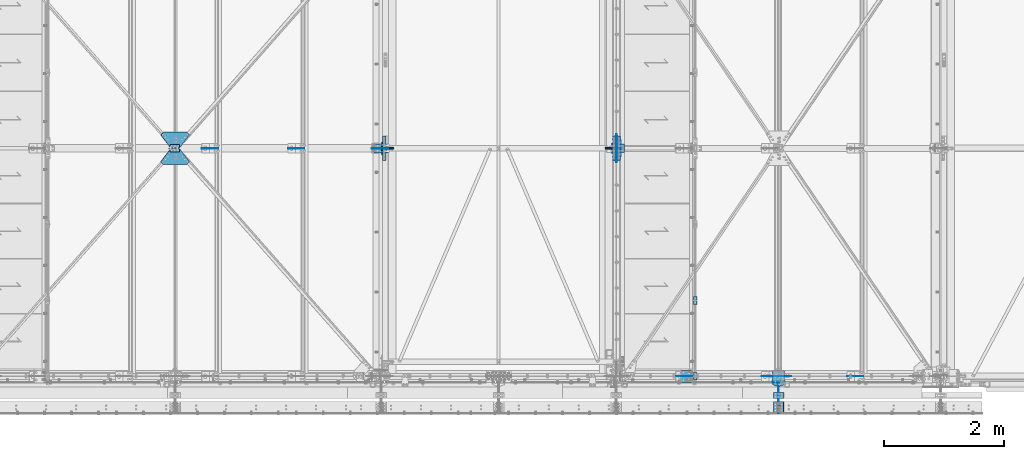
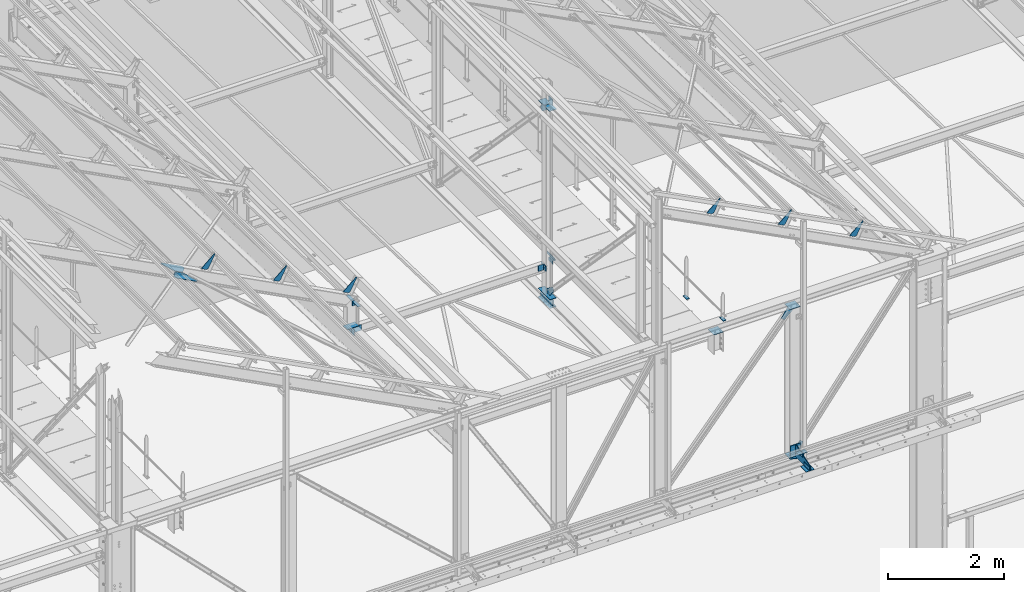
# One storey, part 86 of 362: 36 beams, 6 members, 32 elements without a shape of their own.
"""IFC2X3 building model written with IfcOpenShell, lengths in millimetres."""

from ifc_helpers import new_model, si_unit, frame, frame_2d, origin_with_axes, origin_2d_with_axis, place, context, subcontext, project, spatial, polyline, circle_curve, parameter, trimmed, segment, composite_curve, rectangle, l_section, outline, extrude, material, type_object, element, aggregate, save


model = new_model("IFC2X3")

# Units and contexts
model_context = context("Model", 3, precision=1e-05, world=origin_with_axes())
body_context = subcontext(model_context, "Body", "Model", "MODEL_VIEW")
ifc_project = project(units=[si_unit("LENGTHUNIT", "METRE", prefix="MILLI"), si_unit("AREAUNIT", "SQUARE_METRE"), si_unit("VOLUMEUNIT", "CUBIC_METRE"), si_unit("MASSUNIT", "GRAM", prefix="KILO"), si_unit("TIMEUNIT", "SECOND"), si_unit("PLANEANGLEUNIT", "RADIAN"), si_unit("SOLIDANGLEUNIT", "STERADIAN"), si_unit("THERMODYNAMICTEMPERATUREUNIT", "DEGREE_CELSIUS"), si_unit("LUMINOUSINTENSITYUNIT", "LUMEN")], contexts=[model_context])

# Site, building, storey
site_placement = place(None, origin_with_axes())
site = spatial("IfcSite", under=ifc_project, at=site_placement, Name="Undefined", CompositionType="ELEMENT")
building_placement = place(site_placement, origin_with_axes())
building = spatial("IfcBuilding", under=site, at=building_placement, Name="Undefined", CompositionType="ELEMENT")
storey_placement = place(building_placement, origin_with_axes())
storey = spatial("IfcBuildingStorey", under=building, at=storey_placement, Name="Undefined", CompositionType="ELEMENT", Elevation=0.0)

# Assembly, beams
assembly_1_placement = place(storey_placement, origin_with_axes())
assembly_1 = element("IfcElementAssembly", 1, at=assembly_1_placement, inside=storey, Name="MAIN COURANTE", AssemblyPlace="NOTDEFINED", PredefinedType="NOTDEFINED")
ifc_material = material(Name="Undefined/S235-E24")
beam_type_1 = type_object("IfcBeamType", Name="PL10*60", PredefinedType="NOTDEFINED")
beam_1_placement = place(assembly_1_placement, frame((24783.9915987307, 65.0000000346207, 8555.00000819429), z_axis=(-1.0, 0.0, 0.0), x_axis=(0.0, -1.0, 0.0)))
beam_1 = element("IfcBeam", 2, at=beam_1_placement, type_object=beam_type_1, material=ifc_material, Name="PLATINE", ObjectType="PL10*60", context=body_context, shape_type="SweptSolid", body=[
    extrude(rectangle(XDim=10.0, YDim=60.0, at=origin_2d_with_axis()), frame((130.0, 0.0, 0.0), z_axis=(-1.0, 0.0, 0.0), x_axis=(0.0, -1.0, 0.0)), (0.0, 0.0, 1.0), 130.0),
])
beam_2_placement = place(assembly_1_placement, frame((24783.9915987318, 1330.00343957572, 8245.00000819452), z_axis=(-1.0, 0.0, 0.0), x_axis=(0.0, -1.0, 0.0)))
beam_2 = element("IfcBeam", 3, at=beam_2_placement, type_object=beam_type_1, material=ifc_material, Name="PLATINE", ObjectType="PL10*60", context=body_context, shape_type="SweptSolid", body=[
    extrude(rectangle(XDim=10.0, YDim=60.0, at=origin_2d_with_axis()), frame((130.0, 0.0, 0.0), z_axis=(-1.0, 0.0, 0.0), x_axis=(0.0, -1.0, 0.0)), (0.0, 0.0, 1.0), 130.0),
])
aggregate(assembly_1, [beam_1, beam_2])

# Assembly, beam
assembly_2_placement = place(storey_placement, origin_with_axes())
assembly_2 = element("IfcElementAssembly", 4, at=assembly_2_placement, inside=storey, Name="MONTANT", AssemblyPlace="NOTDEFINED", PredefinedType="NOTDEFINED")
beam_type_2 = type_object("IfcBeamType", Name="TOLE8*138", PredefinedType="NOTDEFINED")
beam_3_placement = place(assembly_2_placement, frame((23470.0, 3797.25, 7260.0), z_axis=(-1.0, 0.0, 0.0), x_axis=(0.0, -1.0, 0.0)))
beam_3 = element("IfcBeam", 5, at=beam_3_placement, type_object=beam_type_2, material=ifc_material, Name="GOUSSET", ObjectType="TOLE8*138", context=body_context, shape_type="SweptSolid", body=[
    extrude(outline(polyline([(1.47401806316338e-08, 20.0000000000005), (19.9999999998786, -3.63797880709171e-12), (97.25, 0.0), (233.206909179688, 179.537170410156), (175.303482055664, 234.738555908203), (0.0, 100.0), (1.47401806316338e-08, 20.0000000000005)])), frame((0.0, 0.0, -4.0), z_axis=(0.0, 0.0, 1.0), x_axis=(1.0, 0.0, 0.0)), (0.0, 0.0, 1.0), 8.0),
])

assembly_3_placement = place(storey_placement, origin_with_axes())
assembly_3 = element("IfcElementAssembly", 6, at=assembly_3_placement, inside=storey, Name="MONTANT", AssemblyPlace="NOTDEFINED", PredefinedType="NOTDEFINED")
beam_type_3 = type_object("IfcBeamType", Name="PL10*200", PredefinedType="NOTDEFINED")
beam_4_placement = place(assembly_3_placement, frame((24546.4916205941, 0.0, 8354.99445082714), z_axis=(0.0, -1.0, 0.0), x_axis=(1.0, 0.0, 0.0)))
beam_4 = element("IfcBeam", 7, at=beam_4_placement, type_object=beam_type_3, material=ifc_material, Name="PLATINE", ObjectType="PL10*200", context=body_context, shape_type="SweptSolid", body=[
    extrude(rectangle(XDim=10.0, YDim=200.0, at=origin_2d_with_axis()), frame((190.0, 0.0, 0.0), z_axis=(-1.0, 0.0, 0.0), x_axis=(0.0, -1.0, 0.0)), (0.0, 0.0, 1.0), 190.0),
])
aggregate(assembly_3, [beam_4])

# Assembly, beams
assembly_4_placement = place(storey_placement, origin_with_axes())
assembly_4 = element("IfcElementAssembly", 8, at=assembly_4_placement, inside=storey, Name="MONTANT", AssemblyPlace="NOTDEFINED", PredefinedType="NOTDEFINED")
beam_5_placement = place(assembly_4_placement, frame((26074.9982817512, 0.0, 8354.99930736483), z_axis=(0.0, 1.0, 0.0), x_axis=(1.0, 0.0, 0.0)))
beam_5 = element("IfcBeam", 9, at=beam_5_placement, type_object=beam_type_3, material=ifc_material, Name="PLATINE", ObjectType="PL10*200", context=body_context, shape_type="SweptSolid", body=[
    extrude(rectangle(XDim=10.0, YDim=200.0, at=origin_2d_with_axis()), frame((200.003108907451, 1.3235095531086e-21, 0.0), z_axis=(-1.0, 0.0, 0.0), x_axis=(0.0, -1.0, 0.0)), (0.0, 0.0, 1.0), 200.0),
])
beam_6_placement = place(assembly_4_placement, frame((26074.9982812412, 0.0, 5195.00069263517), z_axis=(0.0, 1.0, 0.0), x_axis=(1.0, 0.0, 0.0)))
beam_6 = element("IfcBeam", 10, at=beam_6_placement, type_object=beam_type_3, material=ifc_material, Name="PLATINE", ObjectType="PL10*200", context=body_context, shape_type="SweptSolid", body=[
    extrude(rectangle(XDim=10.0, YDim=200.0, at=origin_2d_with_axis()), frame((200.003108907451, 1.3235095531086e-21, 0.0), z_axis=(-1.0, 0.0, 0.0), x_axis=(0.0, -1.0, 0.0)), (0.0, 0.0, 1.0), 200.0),
])

# Assembly, beam
assembly_5_placement = place(storey_placement, origin_with_axes())
assembly_5 = element("IfcElementAssembly", 11, at=assembly_5_placement, inside=storey, AssemblyPlace="NOTDEFINED", PredefinedType="NOTDEFINED")
beam_type_4 = type_object("IfcBeamType", Name="L80*8", PredefinedType="NOTDEFINED")
beam_7_placement = place(assembly_5_placement, frame((26222.4921676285, -270.0, 5409.99824538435), z_axis=(0.0, 0.0, -1.0), x_axis=(0.0, -1.0, 0.0)))
beam_7 = element("IfcBeam", 12, at=beam_7_placement, type_object=beam_type_4, material=ifc_material, Name="ATTACHE", ObjectType="L80*8", context=body_context, shape_type="SweptSolid", body=[
    extrude(l_section(Depth=80.0, Width=80.0, Thickness=8.0, FilletRadius=10.0, EdgeRadius=5.0, at=origin_2d_with_axis()), frame((99.9999999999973, -1.63709046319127e-11, 7.73070496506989e-12), z_axis=(-1.0, 0.0, 0.0), x_axis=(0.0, -1.0, 0.0)), (0.0, 0.0, 1.0), 100.0),
])
aggregate(assembly_5, [beam_7])

assembly_6_placement = place(storey_placement, origin_with_axes())
assembly_6 = element("IfcElementAssembly", 13, at=assembly_6_placement, inside=storey, AssemblyPlace="NOTDEFINED", PredefinedType="NOTDEFINED")
beam_8_placement = place(assembly_6_placement, frame((26127.5, -370.0, 5409.99824538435), z_axis=(0.0, 0.0, -1.0), x_axis=(0.0, 1.0, 0.0)))
beam_8 = element("IfcBeam", 14, at=beam_8_placement, type_object=beam_type_4, material=ifc_material, Name="ATTACHE", ObjectType="L80*8", context=body_context, shape_type="SweptSolid", body=[
    extrude(l_section(Depth=80.0, Width=80.0, Thickness=8.0, FilletRadius=10.0, EdgeRadius=5.0, at=origin_2d_with_axis()), frame((99.9999999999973, -1.63709046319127e-11, 7.73070496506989e-12), z_axis=(-1.0, 0.0, 0.0), x_axis=(0.0, -1.0, 0.0)), (0.0, 0.0, 1.0), 100.0),
])
aggregate(assembly_6, [beam_8])

assembly_7_placement = place(storey_placement, origin_with_axes())
assembly_7 = element("IfcElementAssembly", 15, at=assembly_7_placement, inside=storey, AssemblyPlace="NOTDEFINED", PredefinedType="NOTDEFINED")
beam_9_placement = place(assembly_7_placement, frame((26222.4921676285, -620.0, 5269.99824538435), z_axis=(0.0, 0.0, 1.0), x_axis=(0.0, 1.0, 0.0)))
beam_9 = element("IfcBeam", 16, at=beam_9_placement, type_object=beam_type_4, material=ifc_material, Name="ATTACHE", ObjectType="L80*8", context=body_context, shape_type="SweptSolid", body=[
    extrude(l_section(Depth=80.0, Width=80.0, Thickness=8.0, FilletRadius=10.0, EdgeRadius=5.0, at=origin_2d_with_axis()), frame((200.0, 0.0, 0.0), z_axis=(-1.0, 0.0, 0.0), x_axis=(0.0, -1.0, 0.0)), (0.0, 0.0, 1.0), 200.0),
])
aggregate(assembly_7, [beam_9])

assembly_8_placement = place(storey_placement, origin_with_axes())
assembly_8 = element("IfcElementAssembly", 17, at=assembly_8_placement, inside=storey, AssemblyPlace="NOTDEFINED", PredefinedType="NOTDEFINED")
beam_10_placement = place(assembly_8_placement, frame((26127.5, -420.0, 5269.99824538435), z_axis=(0.0, 0.0, 1.0), x_axis=(0.0, -1.0, 0.0)))
beam_10 = element("IfcBeam", 18, at=beam_10_placement, type_object=beam_type_4, material=ifc_material, Name="ATTACHE", ObjectType="L80*8", context=body_context, shape_type="SweptSolid", body=[
    extrude(l_section(Depth=80.0, Width=80.0, Thickness=8.0, FilletRadius=10.0, EdgeRadius=5.0, at=origin_2d_with_axis()), frame((200.0, 0.0, 0.0), z_axis=(-1.0, 0.0, 0.0), x_axis=(0.0, -1.0, 0.0)), (0.0, 0.0, 1.0), 200.0),
])
aggregate(assembly_8, [beam_10])

# Assembly, beams
assembly_9_placement = place(storey_placement, origin_with_axes())
assembly_9 = element("IfcElementAssembly", 19, at=assembly_9_placement, inside=storey, Name="CONSOLE", AssemblyPlace="NOTDEFINED", PredefinedType="NOTDEFINED")
beam_type_5 = type_object("IfcBeamType", Name="TOLE10*60", PredefinedType="NOTDEFINED")
beam_11_placement = place(assembly_9_placement, frame((26075.0, -110.0, 5224.99824534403), z_axis=(0.0, 0.0, 1.0), x_axis=(0.0, -1.0, 0.0)))
beam_11 = element("IfcBeam", 20, at=beam_11_placement, type_object=beam_type_5, material=ifc_material, Name="RAIDISSEUR", ObjectType="TOLE10*60", context=body_context, shape_type="SweptSolid", body=[
    extrude(outline(polyline([(0.0, 0.0), (30.0, 0.0), (60.0, 82.5), (60.0, 117.5), (30.0, 200.0), (0.0, 200.0), (0.0, 0.0)])), frame((0.0, 0.0, -5.0), z_axis=(0.0, 0.0, 1.0), x_axis=(1.0, 0.0, 0.0)), (0.0, 0.0, 1.0), 10.0),
])
beam_type_6 = type_object("IfcBeamType", Name="PL15*200", PredefinedType="NOTDEFINED")
beam_12_placement = place(assembly_9_placement, frame((26175.0, -102.5, 5479.99824538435), z_axis=(1.0, 0.0, 0.0), x_axis=(0.0, 0.0, -1.0)))
beam_12 = element("IfcBeam", 21, at=beam_12_placement, type_object=beam_type_6, material=ifc_material, Name="PLATINE", ObjectType="PL15*200", context=body_context, shape_type="SweptSolid", body=[
    extrude(rectangle(XDim=15.0, YDim=200.0, at=origin_2d_with_axis()), frame((265.000000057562, 0.0, 0.0), z_axis=(-1.0, 0.0, 0.0), x_axis=(0.0, -1.0, 0.0)), (0.0, 0.0, 1.0), 265.0),
])
beam_type_7 = type_object("IfcBeamType", Name="TOLE15*250", PredefinedType="NOTDEFINED")
beam_13_placement = place(assembly_9_placement, frame((26175.0, -620.0, 5229.99824538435), z_axis=(-1.0, 0.0, 0.0), x_axis=(0.0, 0.0, 1.0)))
beam_13 = element("IfcBeam", 22, at=beam_13_placement, type_object=beam_type_7, material=ifc_material, Name="CONSOLE", ObjectType="TOLE15*250", context=body_context, shape_type="SweptSolid", body=[
    extrude(outline(polyline([(0.0, 0.0), (100.0, 0.0), (250.0, 450.0), (250.0, 510.0), (19.9999999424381, 510.0), (-5.53045894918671e-08, 490.0), (0.0, 0.0)])), frame((0.0, 0.0, -7.5), z_axis=(0.0, 0.0, 1.0), x_axis=(1.0, 0.0, 0.0)), (0.0, 0.0, 1.0), 15.0),
])
aggregate(assembly_9, [beam_11, beam_12, beam_13])

# Assembly, beam
assembly_10_placement = place(storey_placement, origin_with_axes())
assembly_10 = element("IfcElementAssembly", 23, at=assembly_10_placement, inside=storey, AssemblyPlace="NOTDEFINED", PredefinedType="NOTDEFINED")
beam_type_8 = type_object("IfcBeamType", Name="L70*7", PredefinedType="NOTDEFINED")
beam_14_placement = place(assembly_10_placement, frame((23571.5000012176, 3730.0, 7915.0), z_axis=(1.0, 0.0, 0.0), x_axis=(0.0, 1.0, 0.0)))
beam_14 = element("IfcBeam", 24, at=beam_14_placement, type_object=beam_type_8, material=ifc_material, Name="ATTACHE", ObjectType="L70*7", context=body_context, shape_type="SweptSolid", body=[
    extrude(l_section(Depth=70.0, Width=70.0, Thickness=7.0, FilletRadius=9.0, EdgeRadius=4.5, at=origin_2d_with_axis()), frame((140.0, 0.0, 0.0), z_axis=(-1.0, 0.0, 0.0), x_axis=(0.0, -1.0, 0.0)), (0.0, 0.0, 1.0), 140.0),
])
aggregate(assembly_10, [beam_14])

# Assembly, member
assembly_11_placement = place(storey_placement, origin_with_axes())
assembly_11 = element("IfcElementAssembly", 25, at=assembly_11_placement, inside=storey, AssemblyPlace="NOTDEFINED", PredefinedType="NOTDEFINED")
member_type_1 = type_object("IfcMemberType", Name="L60*6", PredefinedType="NOTDEFINED")
member_1_placement = place(assembly_11_placement, frame((16018.5622793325, 3766.50015095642, 10284.0892916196), z_axis=(0.0, -1.0, 0.0), x_axis=(0.886081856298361, 3.500000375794e-08, -0.463528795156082)))
member_1 = element("IfcMember", 26, at=member_1_placement, type_object=member_type_1, material=ifc_material, Name="ATTACHE", ObjectType="L60*6", context=body_context, shape_type="SweptSolid", body=[
    extrude(l_section(Depth=60.0, Width=60.0, Thickness=6.0, FilletRadius=8.0, EdgeRadius=4.0, at=origin_2d_with_axis()), frame((180.0, 0.0, 0.0), z_axis=(-1.0, 0.0, 0.0), x_axis=(0.0, -1.0, 0.0)), (0.0, 0.0, 1.0), 180.0),
])
aggregate(assembly_11, [member_1])

assembly_12_placement = place(storey_placement, origin_with_axes())
assembly_12 = element("IfcElementAssembly", 27, at=assembly_12_placement, inside=storey, AssemblyPlace="NOTDEFINED", PredefinedType="NOTDEFINED")
member_2_placement = place(assembly_12_placement, frame((16178.0570125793, 3833.49994843, 10200.6541088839), z_axis=(0.0, 1.0, 0.0), x_axis=(-0.886081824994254, 0.0, 0.463528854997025)))
member_2 = element("IfcMember", 28, at=member_2_placement, type_object=member_type_1, material=ifc_material, Name="ATTACHE", ObjectType="L60*6", context=body_context, shape_type="SweptSolid", body=[
    extrude(l_section(Depth=60.0, Width=60.0, Thickness=6.0, FilletRadius=8.0, EdgeRadius=4.0, at=origin_2d_with_axis()), frame((180.0, 0.0, 0.0), z_axis=(-1.0, 0.0, 0.0), x_axis=(0.0, -1.0, 0.0)), (0.0, 0.0, 1.0), 180.0),
])
aggregate(assembly_12, [member_2])

# Assembly, beam
assembly_13_placement = place(storey_placement, origin_with_axes())
assembly_13 = element("IfcElementAssembly", 29, at=assembly_13_placement, inside=storey, Name="PANNE SHED", AssemblyPlace="NOTDEFINED", PredefinedType="NOTDEFINED")
beam_type_9 = type_object("IfcBeamType", Name="TOLE8*140", PredefinedType="NOTDEFINED")
beam_15_placement = place(assembly_13_placement, frame((19667.0878027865, 3800.0, 8923.94974997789), z_axis=(0.0, -1.0, 0.0), x_axis=(-0.886081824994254, 0.0, 0.463528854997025)))
beam_15 = element("IfcBeam", 30, at=beam_15_placement, type_object=beam_type_9, material=ifc_material, Name="RAIDISSEUR", ObjectType="TOLE8*140", context=body_context, shape_type="SweptSolid", body=[
    extrude(outline(polyline([(0.0, 0.0), (19.9999999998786, -3.63797880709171e-12), (140.000030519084, 299.999999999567), (140.000030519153, 319.999999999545), (30.0000147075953, 319.999999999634), (0.0, 290.0), (0.0, 0.0)])), frame((0.0, 0.0, -4.0), z_axis=(0.0, 0.0, 1.0), x_axis=(1.0, 0.0, 0.0)), (0.0, 0.0, 1.0), 8.0),
])
aggregate(assembly_13, [beam_15])

assembly_14_placement = place(storey_placement, origin_with_axes())
assembly_14 = element("IfcElementAssembly", 31, at=assembly_14_placement, inside=storey, Name="PANNE SHED", AssemblyPlace="NOTDEFINED", PredefinedType="NOTDEFINED")
beam_16_placement = place(assembly_14_placement, frame((18269.6614730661, 3800.0, 9654.97325100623), z_axis=(0.0, -1.0, 0.0), x_axis=(-0.886081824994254, 0.0, 0.463528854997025)))
beam_16 = element("IfcBeam", 32, at=beam_16_placement, type_object=beam_type_9, material=ifc_material, Name="RAIDISSEUR", ObjectType="TOLE8*140", context=body_context, shape_type="SweptSolid", body=[
    extrude(outline(polyline([(0.0, 0.0), (19.9999999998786, -3.63797880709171e-12), (140.000030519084, 299.999999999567), (140.000030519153, 319.999999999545), (30.0000147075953, 319.999999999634), (0.0, 290.0), (0.0, 0.0)])), frame((0.0, 0.0, -4.0), z_axis=(0.0, 0.0, 1.0), x_axis=(1.0, 0.0, 0.0)), (0.0, 0.0, 1.0), 8.0),
])
aggregate(assembly_14, [beam_16])

assembly_15_placement = place(storey_placement, origin_with_axes())
assembly_15 = element("IfcElementAssembly", 33, at=assembly_15_placement, inside=storey, Name="PANNE SHED", AssemblyPlace="NOTDEFINED", PredefinedType="NOTDEFINED")
beam_17_placement = place(assembly_15_placement, frame((16832.361407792, 3800.0, 10406.855553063), z_axis=(0.0, -1.0, 0.0), x_axis=(-0.886081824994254, 0.0, 0.463528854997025)))
beam_17 = element("IfcBeam", 34, at=beam_17_placement, type_object=beam_type_9, material=ifc_material, Name="RAIDISSEUR", ObjectType="TOLE8*140", context=body_context, shape_type="SweptSolid", body=[
    extrude(outline(polyline([(0.0, 0.0), (19.9999999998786, -3.63797880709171e-12), (140.000030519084, 299.999999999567), (140.000030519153, 319.999999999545), (30.0000147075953, 319.999999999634), (0.0, 290.0), (0.0, 0.0)])), frame((0.0, 0.0, -4.0), z_axis=(0.0, 0.0, 1.0), x_axis=(1.0, 0.0, 0.0)), (0.0, 0.0, 1.0), 8.0),
])
aggregate(assembly_15, [beam_17])

assembly_16_placement = place(storey_placement, origin_with_axes())
assembly_16 = element("IfcElementAssembly", 35, at=assembly_16_placement, inside=storey, Name="PANNE SHED", AssemblyPlace="NOTDEFINED", PredefinedType="NOTDEFINED")
beam_18_placement = place(assembly_16_placement, frame((27327.8187212, 0.0, 9439.946688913), z_axis=(0.0, -1.0, 0.0), x_axis=(-0.460093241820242, 0.0, -0.887870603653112)))
beam_18 = element("IfcBeam", 36, at=beam_18_placement, type_object=beam_type_9, material=ifc_material, Name="RAIDISSEUR", ObjectType="TOLE8*140", context=body_context, shape_type="SweptSolid", body=[
    extrude(outline(polyline([(0.0, 0.0), (19.9999999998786, -3.63797880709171e-12), (20.0000000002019, 109.999999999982), (-9.99999999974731, 139.99998998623), (-300.0000000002, 139.999893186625), (-300.000000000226, 119.999893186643), (0.0, 0.0)])), frame((0.0, 0.0, -4.0), z_axis=(0.0, 0.0, 1.0), x_axis=(1.0, 0.0, 0.0)), (0.0, 0.0, 1.0), 8.0),
])
aggregate(assembly_16, [beam_18])

assembly_17_placement = place(storey_placement, origin_with_axes())
assembly_17 = element("IfcElementAssembly", 37, at=assembly_17_placement, inside=storey, Name="PANNE SHED", AssemblyPlace="NOTDEFINED", PredefinedType="NOTDEFINED")
beam_19_placement = place(assembly_17_placement, frame((25901.1937204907, 0.0, 10179.221665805), z_axis=(0.0, -1.0, 0.0), x_axis=(-0.460093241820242, 0.0, -0.887870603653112)))
beam_19 = element("IfcBeam", 38, at=beam_19_placement, type_object=beam_type_9, material=ifc_material, Name="RAIDISSEUR", ObjectType="TOLE8*140", context=body_context, shape_type="SweptSolid", body=[
    extrude(outline(polyline([(0.0, 0.0), (19.9999999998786, -3.63797880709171e-12), (20.0000000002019, 109.999999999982), (-9.99999999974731, 139.99998998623), (-300.0000000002, 139.999893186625), (-300.000000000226, 119.999893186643), (0.0, 0.0)])), frame((0.0, 0.0, -4.0), z_axis=(0.0, 0.0, 1.0), x_axis=(1.0, 0.0, 0.0)), (0.0, 0.0, 1.0), 8.0),
])
aggregate(assembly_17, [beam_19])

assembly_18_placement = place(storey_placement, origin_with_axes())
assembly_18 = element("IfcElementAssembly", 39, at=assembly_18_placement, inside=storey, Name="PANNE SHED", AssemblyPlace="NOTDEFINED", PredefinedType="NOTDEFINED")
beam_20_placement = place(assembly_18_placement, frame((24474.5687197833, 0.0, 10918.4966426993), z_axis=(0.0, -1.0, 0.0), x_axis=(-0.460093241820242, 0.0, -0.887870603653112)))
beam_20 = element("IfcBeam", 40, at=beam_20_placement, type_object=beam_type_9, material=ifc_material, Name="RAIDISSEUR", ObjectType="TOLE8*140", context=body_context, shape_type="SweptSolid", body=[
    extrude(outline(polyline([(0.0, 0.0), (19.9999999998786, -3.63797880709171e-12), (20.0000000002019, 109.999999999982), (-9.99999999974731, 139.99998998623), (-300.0000000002, 139.999893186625), (-300.000000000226, 119.999893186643), (0.0, 0.0)])), frame((0.0, 0.0, -4.0), z_axis=(0.0, 0.0, 1.0), x_axis=(1.0, 0.0, 0.0)), (0.0, 0.0, 1.0), 8.0),
])
aggregate(assembly_18, [beam_20])

assembly_19_placement = place(storey_placement, origin_with_axes())
assembly_19 = element("IfcElementAssembly", 41, at=assembly_19_placement, inside=storey, AssemblyPlace="NOTDEFINED", PredefinedType="NOTDEFINED")
beam_type_10 = type_object("IfcBeamType", Name="TOLE6*259", PredefinedType="NOTDEFINED")
beam_21_placement = place(assembly_19_placement, frame((16193.3534907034, 3786.50025416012, 10229.8948709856), z_axis=(0.463528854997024, 6.99999093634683e-09, 0.886081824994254), x_axis=(-0.886082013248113, 9.38091927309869e-07, 0.463528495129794)))
beam_21 = element("IfcBeam", 42, at=beam_21_placement, type_object=beam_type_10, material=ifc_material, Name="GOUSSET", ObjectType="TOLE6*259", context=body_context, shape_type="SweptSolid", body=[
    extrude(outline(polyline([(0.0, 0.0), (180.000000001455, -5.27506927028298e-10), (360.682250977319, 209.211318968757), (311.032257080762, 258.555816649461), (-131.170898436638, 258.425079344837), (-180.820907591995, 209.080581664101), (0.0, 0.0)])), frame((0.0, 0.0, -3.0), z_axis=(0.0, 0.0, 1.0), x_axis=(1.0, 0.0, 0.0)), (0.0, 0.0, 1.0), 6.0),
])
aggregate(assembly_19, [beam_21])

assembly_20_placement = place(storey_placement, origin_with_axes())
assembly_20 = element("IfcElementAssembly", 43, at=assembly_20_placement, inside=storey, AssemblyPlace="NOTDEFINED", PredefinedType="NOTDEFINED")
beam_22_placement = place(assembly_20_placement, frame((16193.353490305, 3813.49985466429, 10229.894870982), z_axis=(0.463528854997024, 6.99999093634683e-09, 0.886081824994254), x_axis=(0.57917434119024, 0.756809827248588, -0.30297849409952)))
beam_22 = element("IfcBeam", 44, at=beam_22_placement, type_object=beam_type_10, material=ifc_material, Name="GOUSSET", ObjectType="TOLE6*259", context=body_context, shape_type="SweptSolid", body=[
    extrude(outline(polyline([(0.0, 0.0), (276.438415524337, -9.24046617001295e-10), (281.329833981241, 69.8288879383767), (-7.62410307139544, 404.393493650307), (-77.4214782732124, 409.715789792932), (-117.65432739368, 136.225769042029), (0.0, 0.0)])), frame((0.0, 0.0, -3.0), z_axis=(0.0, 0.0, 1.0), x_axis=(1.0, 0.0, 0.0)), (0.0, 0.0, 1.0), 6.0),
])
aggregate(assembly_20, [beam_22])

# Assembly, member
assembly_21_placement = place(storey_placement, origin_with_axes())
assembly_21 = element("IfcElementAssembly", 45, at=assembly_21_placement, inside=storey, AssemblyPlace="NOTDEFINED", PredefinedType="NOTDEFINED")
member_type_2 = type_object("IfcMemberType", Name="L200*100*10", PredefinedType="NOTDEFINED")
member_3_placement = place(assembly_21_placement, frame((19656.0000000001, 3851.09559799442, 7778.90053176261), z_axis=(1.0, 0.0, 0.0), x_axis=(7.58071938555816e-11, 0.0314107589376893, 0.999506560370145)))
member_3 = element("IfcMember", 46, at=member_3_placement, type_object=member_type_2, material=ifc_material, Name="ATTACHE", ObjectType="L200*100*10", context=body_context, shape_type="SweptSolid", body=[
    extrude(l_section(Depth=200.0, Width=100.0, Thickness=10.0, FilletRadius=15.0, EdgeRadius=7.5, at=origin_2d_with_axis()), frame((120.0, 0.0, 0.0), z_axis=(-1.0, 0.0, 0.0), x_axis=(0.0, -1.0, 0.0)), (0.0, 0.0, 1.0), 120.0),
])
aggregate(assembly_21, [member_3])

assembly_22_placement = place(storey_placement, origin_with_axes())
assembly_22 = element("IfcElementAssembly", 47, at=assembly_22_placement, inside=storey, AssemblyPlace="NOTDEFINED", PredefinedType="NOTDEFINED")
member_4_placement = place(assembly_22_placement, frame((19656.0000000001, 3748.91638842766, 7902.17093347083), z_axis=(1.0, 0.0, 0.0), x_axis=(-1.05403257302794e-09, -0.0314112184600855, -0.999506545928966)))
member_4 = element("IfcMember", 48, at=member_4_placement, type_object=member_type_2, material=ifc_material, Name="ATTACHE", ObjectType="L200*100*10", context=body_context, shape_type="SweptSolid", body=[
    extrude(l_section(Depth=200.0, Width=100.0, Thickness=10.0, FilletRadius=15.0, EdgeRadius=7.5, at=origin_2d_with_axis()), frame((120.0, 0.0, 0.0), z_axis=(-1.0, 0.0, 0.0), x_axis=(0.0, -1.0, 0.0)), (0.0, 0.0, 1.0), 120.0),
])
aggregate(assembly_22, [member_4])

# Assembly, beam
assembly_23_placement = place(storey_placement, origin_with_axes())
assembly_23 = element("IfcElementAssembly", 49, at=assembly_23_placement, inside=storey, AssemblyPlace="NOTDEFINED", PredefinedType="NOTDEFINED")
beam_type_11 = type_object("IfcBeamType", Name="PL10*133", PredefinedType="NOTDEFINED")
beam_23_placement = place(assembly_23_placement, frame((23470.0, 4005.00000000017, 7074.0000000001), z_axis=(1.0, 0.0, 0.0), x_axis=(0.0, -1.0, 0.0)))
beam_23 = element("IfcBeam", 50, at=beam_23_placement, type_object=beam_type_11, material=ifc_material, Name="ECLISSE", ObjectType="PL10*133", context=body_context, shape_type="SweptSolid", body=[
    extrude(rectangle(XDim=10.0, YDim=133.0, at=origin_2d_with_axis()), frame((410.0, 0.0, 0.0), z_axis=(-1.0, 0.0, 0.0), x_axis=(0.0, -1.0, 0.0)), (0.0, 0.0, 1.0), 410.0),
])
aggregate(assembly_23, [beam_23])

# Beam
beam_24_placement = place(assembly_2_placement, frame((23470.0, 4005.00000000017, 7255.0000000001), z_axis=(1.0, 0.0, 0.0), x_axis=(0.0, -1.0, 0.0)))
beam_24 = element("IfcBeam", 51, at=beam_24_placement, type_object=beam_type_11, material=ifc_material, Name="PLATINE", ObjectType="PL10*133", context=body_context, shape_type="SweptSolid", body=[
    extrude(rectangle(XDim=10.0, YDim=133.0, at=origin_2d_with_axis()), frame((410.0, 0.0, 0.0), z_axis=(-1.0, 0.0, 0.0), x_axis=(0.0, -1.0, 0.0)), (0.0, 0.0, 1.0), 410.0),
])

# Assembly, beam
assembly_24_placement = place(storey_placement, origin_with_axes())
assembly_24 = element("IfcElementAssembly", 52, at=assembly_24_placement, inside=storey, AssemblyPlace="NOTDEFINED", PredefinedType="NOTDEFINED")
beam_type_12 = type_object("IfcBeamType", Name="L200*100*10", PredefinedType="NOTDEFINED")
beam_25_placement = place(assembly_24_placement, frame((19629.9999999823, 3903.5, 8400.0), z_axis=(0.0, 1.0, 0.0), x_axis=(-1.0, 0.0, 0.0)))
beam_25 = element("IfcBeam", 53, at=beam_25_placement, type_object=beam_type_12, material=ifc_material, Name="ATTACHE", ObjectType="L200*100*10", context=body_context, shape_type="SweptSolid", body=[
    extrude(l_section(Depth=200.0, Width=100.0, Thickness=10.0, FilletRadius=15.0, EdgeRadius=7.5, at=origin_2d_with_axis()), frame((60.0, 0.0, 0.0), z_axis=(-1.0, 0.0, 0.0), x_axis=(0.0, -1.0, 0.0)), (0.0, 0.0, 1.0), 60.0),
])
aggregate(assembly_24, [beam_25])

assembly_25_placement = place(storey_placement, origin_with_axes())
assembly_25 = element("IfcElementAssembly", 54, at=assembly_25_placement, inside=storey, AssemblyPlace="NOTDEFINED", PredefinedType="NOTDEFINED")
beam_26_placement = place(assembly_25_placement, frame((19569.9999999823, 3696.5, 8400.0), z_axis=(0.0, -1.0, 0.0), x_axis=(1.0, 0.0, 0.0)))
beam_26 = element("IfcBeam", 55, at=beam_26_placement, type_object=beam_type_12, material=ifc_material, Name="ATTACHE", ObjectType="L200*100*10", context=body_context, shape_type="SweptSolid", body=[
    extrude(l_section(Depth=200.0, Width=100.0, Thickness=10.0, FilletRadius=15.0, EdgeRadius=7.5, at=origin_2d_with_axis()), frame((60.0, 0.0, 0.0), z_axis=(-1.0, 0.0, 0.0), x_axis=(0.0, -1.0, 0.0)), (0.0, 0.0, 1.0), 60.0),
])
aggregate(assembly_25, [beam_26])

assembly_26_placement = place(storey_placement, origin_with_axes())
assembly_26 = element("IfcElementAssembly", 56, at=assembly_26_placement, inside=storey, AssemblyPlace="NOTDEFINED", PredefinedType="NOTDEFINED")
beam_type_13 = type_object("IfcBeamType", Name="TOLE6*60", PredefinedType="NOTDEFINED")
beam_27_placement = place(assembly_26_placement, frame((23544.9918295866, 3670.0, 7985.0), z_axis=(-1.0, 0.0, 0.0), x_axis=(0.0, 0.0, 1.0)))
beam_27 = element("IfcBeam", 57, at=beam_27_placement, type_object=beam_type_13, material=ifc_material, Name="PLATINE", ObjectType="TOLE6*60", context=body_context, shape_type="SweptSolid", body=[
    extrude(outline(polyline([(0.0, 0.0), (60.0, 0.0), (60.0, 260.0), (0.0, 260.0), (0.0, 0.0)])), frame((0.0, 0.0, -3.0), z_axis=(0.0, 0.0, 1.0), x_axis=(1.0, 0.0, 0.0)), (0.0, 0.0, 1.0), 6.0),
])
aggregate(assembly_26, [beam_27])

assembly_27_placement = place(storey_placement, origin_with_axes())
assembly_27 = element("IfcElementAssembly", 58, at=assembly_27_placement, inside=storey, Name="TRAVERSE SHED", AssemblyPlace="NOTDEFINED", PredefinedType="NOTDEFINED")
beam_type_14 = type_object("IfcBeamType", Name="PL10*140", PredefinedType="NOTDEFINED")
beam_28_placement = place(assembly_27_placement, frame((23541.5, 3800.0, 11360.8449760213), z_axis=(0.0, -1.0, 0.0), x_axis=(0.0, 0.0, -1.0)))
beam_28 = element("IfcBeam", 59, at=beam_28_placement, type_object=beam_type_14, material=ifc_material, Name="PLATINE", ObjectType="PL10*140", context=body_context, shape_type="SweptSolid", body=[
    extrude(rectangle(XDim=10.0, YDim=140.0, at=origin_2d_with_axis()), frame((215.684581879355, 0.0, 0.0), z_axis=(-1.0, 0.0, 0.0), x_axis=(0.0, -1.0, 0.0)), (0.0, 0.0, 1.0), 215.68),
])
aggregate(assembly_27, [beam_28])

assembly_28_placement = place(storey_placement, origin_with_axes())
assembly_28 = element("IfcElementAssembly", 60, at=assembly_28_placement, inside=storey, Name="TRAVERSE SHED", AssemblyPlace="NOTDEFINED", PredefinedType="NOTDEFINED")
beam_type_15 = type_object("IfcBeamType", Name="PL10*240", PredefinedType="NOTDEFINED")
beam_29_placement = place(assembly_28_placement, frame((19550.0, 3874.80562184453, 7933.23320419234), z_axis=(-1.0, 0.0, 0.0), x_axis=(0.0, -0.999506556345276, 0.031410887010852)))
beam_29 = element("IfcBeam", 61, at=beam_29_placement, type_object=beam_type_15, material=ifc_material, Name="PLATINE", ObjectType="PL10*240", context=body_context, shape_type="SweptSolid", body=[
    extrude(rectangle(XDim=10.0, YDim=240.0, at=origin_2d_with_axis()), frame((150.0, 0.0, 0.0), z_axis=(-1.0, 0.0, 0.0), x_axis=(0.0, -1.0, 0.0)), (0.0, 0.0, 1.0), 150.0),
])
aggregate(assembly_28, [beam_29])

# Assembly, member
assembly_29_placement = place(storey_placement, origin_with_axes())
assembly_29 = element("IfcElementAssembly", 62, at=assembly_29_placement, inside=storey, AssemblyPlace="NOTDEFINED", PredefinedType="NOTDEFINED")
member_type_3 = type_object("IfcMemberType", Name="L120*80*10", PredefinedType="NOTDEFINED")
member_5_placement = place(assembly_29_placement, frame((23343.5000000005, 3844.86435676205, 7899.15542945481), z_axis=(-1.0, 0.0, 0.0), x_axis=(-1.05403257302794e-09, -0.0314112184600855, -0.999506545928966)))
member_5 = element("IfcMember", 63, at=member_5_placement, type_object=member_type_3, material=ifc_material, Name="ATTACHE", ObjectType="L120*80*10", context=body_context, shape_type="SweptSolid", body=[
    extrude(l_section(Depth=120.0, Width=80.0, Thickness=10.0, FilletRadius=11.0, EdgeRadius=5.5, at=origin_2d_with_axis()), frame((120.0, 0.0, 0.0), z_axis=(-1.0, 0.0, 0.0), x_axis=(0.0, -1.0, 0.0)), (0.0, 0.0, 1.0), 120.0),
])
aggregate(assembly_29, [member_5])

assembly_30_placement = place(storey_placement, origin_with_axes())
assembly_30 = element("IfcElementAssembly", 64, at=assembly_30_placement, inside=storey, AssemblyPlace="NOTDEFINED", PredefinedType="NOTDEFINED")
member_6_placement = place(assembly_30_placement, frame((23343.5000000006, 3755.1365857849, 7781.91603577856), z_axis=(-1.0, 0.0, 0.0), x_axis=(7.58071938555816e-11, 0.0314107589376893, 0.999506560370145)))
member_6 = element("IfcMember", 65, at=member_6_placement, type_object=member_type_3, material=ifc_material, Name="ATTACHE", ObjectType="L120*80*10", context=body_context, shape_type="SweptSolid", body=[
    extrude(l_section(Depth=120.0, Width=80.0, Thickness=10.0, FilletRadius=11.0, EdgeRadius=5.5, at=origin_2d_with_axis()), frame((120.0, 0.0, 0.0), z_axis=(-1.0, 0.0, 0.0), x_axis=(0.0, -1.0, 0.0)), (0.0, 0.0, 1.0), 120.0),
])
aggregate(assembly_30, [member_6])

# Beam
beam_type_16 = type_object("IfcBeamType", Name="TOLE10*192", PredefinedType="NOTDEFINED")
beam_30_placement = place(assembly_2_placement, frame((23403.5, 3604.99692211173, 11231.0), z_axis=(0.0, 0.0, -1.0), x_axis=(0.0, 1.0, 0.0)))
beam_30 = element("IfcBeam", 66, at=beam_30_placement, type_object=beam_type_16, material=ifc_material, Name="PLAT", ObjectType="TOLE10*192", context=body_context, shape_type="SweptSolid", body=[
    extrude(outline(composite_curve([segment(trimmed(circle_curve(frame_2d((10.0, 10.0), x_axis=(-1.0, 0.0)), 10.0), [parameter(0.0)], [parameter(1.5707963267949)], True, "PARAMETER"), True, "CONTINUOUS"), segment(polyline([(9.99999999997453, 6.91215973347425e-11), (124.5, 0.0), (124.5, 9.0), (172.25, 9.0), (192.25, 29.0), (192.25, 104.0), (172.25, 124.0), (124.0, 124.0), (124.0, 140.0), (10.0, 140.0)]), True, "CONTINUOUS"), segment(trimmed(circle_curve(frame_2d((10.0, 130.0), x_axis=(0.0, 1.0)), 10.0), [parameter(0.0)], [parameter(1.5707963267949)], True, "PARAMETER"), True, "CONTINUOUS"), segment(polyline([(0.0, 130.0), (-1.81898940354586e-10, 10.0000000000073)]), True, "CONTINUOUS")], self_intersect=True)), frame((0.0, 0.0, -5.0), z_axis=(0.0, 0.0, 1.0), x_axis=(1.0, 0.0, 0.0)), (0.0, 0.0, 1.0), 10.0),
])

beam_31_placement = place(assembly_2_placement, frame((23403.5, 3995.0, 11231.0), z_axis=(0.0, 0.0, 1.0), x_axis=(0.0, -1.0, 0.0)))
beam_31 = element("IfcBeam", 67, at=beam_31_placement, type_object=beam_type_16, material=ifc_material, Name="PLAT", ObjectType="TOLE10*192", context=body_context, shape_type="SweptSolid", body=[
    extrude(outline(composite_curve([segment(trimmed(circle_curve(frame_2d((10.0, 10.0), x_axis=(-1.0, 0.0)), 10.0), [parameter(0.0)], [parameter(1.5707963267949)], True, "PARAMETER"), True, "CONTINUOUS"), segment(polyline([(9.99999999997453, 6.91215973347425e-11), (124.5, 0.0), (124.5, 9.0), (172.25, 9.0), (192.25, 29.0), (192.25, 104.0), (172.25, 124.0), (124.0, 124.0), (124.0, 140.0), (10.0, 140.0)]), True, "CONTINUOUS"), segment(trimmed(circle_curve(frame_2d((10.0, 130.0), x_axis=(0.0, 1.0)), 10.0), [parameter(0.0)], [parameter(1.5707963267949)], True, "PARAMETER"), True, "CONTINUOUS"), segment(polyline([(0.0, 130.0), (-1.81898940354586e-10, 10.0000000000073)]), True, "CONTINUOUS")], self_intersect=True)), frame((0.0, 0.0, -5.0), z_axis=(0.0, 0.0, 1.0), x_axis=(1.0, 0.0, 0.0)), (0.0, 0.0, 1.0), 10.0),
])

beam_type_17 = type_object("IfcBeamType", Name="TOLE8*235", PredefinedType="NOTDEFINED")
beam_32_placement = place(assembly_2_placement, frame((23470.0, 3802.75, 11226.0), z_axis=(-1.0, 0.0, 0.0), x_axis=(0.0, 1.0, 0.0)))
beam_32 = element("IfcBeam", 68, at=beam_32_placement, type_object=beam_type_17, material=ifc_material, Name="GOUSSET", ObjectType="TOLE8*235", context=body_context, shape_type="SweptSolid", body=[
    extrude(outline(polyline([(1.47401806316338e-08, 20.0000000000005), (19.9999999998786, -3.63797880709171e-12), (117.25, 0.0), (233.20703125, 179.537002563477), (175.303649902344, 234.738433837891), (0.0, 100.0), (1.47401806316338e-08, 20.0000000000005)])), frame((0.0, 0.0, -4.0), z_axis=(0.0, 0.0, 1.0), x_axis=(1.0, 0.0, 0.0)), (0.0, 0.0, 1.0), 8.0),
])

aggregate(assembly_2, [beam_32, beam_3, beam_30, beam_31, beam_24])

# Assembly, beam
assembly_31_placement = place(storey_placement, origin_with_axes())
assembly_31 = element("IfcElementAssembly", 69, at=assembly_31_placement, inside=storey, AssemblyPlace="NOTDEFINED", PredefinedType="NOTDEFINED")
beam_type_18 = type_object("IfcBeamType", Name="PL10*120", PredefinedType="NOTDEFINED")
beam_33_placement = place(assembly_31_placement, frame((23478.0, 4005.00000000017, 7164.5000000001), z_axis=(0.0, 0.0, -1.0), x_axis=(0.0, -1.0, 0.0)))
beam_33 = element("IfcBeam", 70, at=beam_33_placement, type_object=beam_type_18, material=ifc_material, Name="ECLISSE", ObjectType="PL10*120", context=body_context, shape_type="SweptSolid", body=[
    extrude(rectangle(XDim=10.0, YDim=120.0, at=origin_2d_with_axis()), frame((410.0, 0.0, 0.0), z_axis=(-1.0, 0.0, 0.0), x_axis=(0.0, -1.0, 0.0)), (0.0, 0.0, 1.0), 410.0),
])
aggregate(assembly_31, [beam_33])

assembly_32_placement = place(storey_placement, origin_with_axes())
assembly_32 = element("IfcElementAssembly", 71, at=assembly_32_placement, inside=storey, AssemblyPlace="NOTDEFINED", PredefinedType="NOTDEFINED")
beam_34_placement = place(assembly_32_placement, frame((23462.0, 4005.00000000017, 7164.5000000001), z_axis=(0.0, 0.0, -1.0), x_axis=(0.0, -1.0, 0.0)))
beam_34 = element("IfcBeam", 72, at=beam_34_placement, type_object=beam_type_18, material=ifc_material, Name="ECLISSE", ObjectType="PL10*120", context=body_context, shape_type="SweptSolid", body=[
    extrude(rectangle(XDim=10.0, YDim=120.0, at=origin_2d_with_axis()), frame((410.0, 0.0, 0.0), z_axis=(-1.0, 0.0, 0.0), x_axis=(0.0, -1.0, 0.0)), (0.0, 0.0, 1.0), 410.0),
])
aggregate(assembly_32, [beam_34])

# Beam
beam_type_19 = type_object("IfcBeamType", Name="TOLE8*133", PredefinedType="NOTDEFINED")
beam_35_placement = place(assembly_4_placement, frame((26178.25, 0.0, 5300.0), z_axis=(0.0, -1.0, 0.0), x_axis=(0.0, 0.0, -1.0)))
beam_35 = element("IfcBeam", 73, at=beam_35_placement, type_object=beam_type_19, material=ifc_material, Name="GOUSSET", ObjectType="TOLE8*133", context=body_context, shape_type="SweptSolid", body=[
    extrude(outline(polyline([(0.0, 0.0), (80.00000000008, 8.00355337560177e-11), (99.9998580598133, 19.9999999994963), (99.9993133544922, 96.7513885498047), (-104.830749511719, 209.941070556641), (-153.183883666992, 146.207458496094), (0.0, 0.0)])), frame((0.0, 0.0, -4.0), z_axis=(0.0, 0.0, 1.0), x_axis=(1.0, 0.0, 0.0)), (0.0, 0.0, 1.0), 8.0),
])

beam_type_20 = type_object("IfcBeamType", Name="TOLE8*136", PredefinedType="NOTDEFINED")
beam_36_placement = place(assembly_4_placement, frame((26171.75, 0.0, 8249.99444626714), z_axis=(0.0, -1.0, 0.0), x_axis=(0.0, 0.0, 1.0)))
beam_36 = element("IfcBeam", 74, at=beam_36_placement, type_object=beam_type_20, material=ifc_material, Name="GOUSSET", ObjectType="TOLE8*136", context=body_context, shape_type="SweptSolid", body=[
    extrude(outline(polyline([(0.0, 0.0), (80.00000000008, 8.00355337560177e-11), (100.001004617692, 19.9999999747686), (100.004859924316, 96.7517166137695), (-92.2390594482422, 221.910980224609), (-144.167861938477, 161.055435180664), (0.0, 0.0)])), frame((0.0, 0.0, -4.0), z_axis=(0.0, 0.0, 1.0), x_axis=(1.0, 0.0, 0.0)), (0.0, 0.0, 1.0), 8.0),
])

aggregate(assembly_4, [beam_35, beam_36, beam_5, beam_6])

save(model, "model.ifc")
